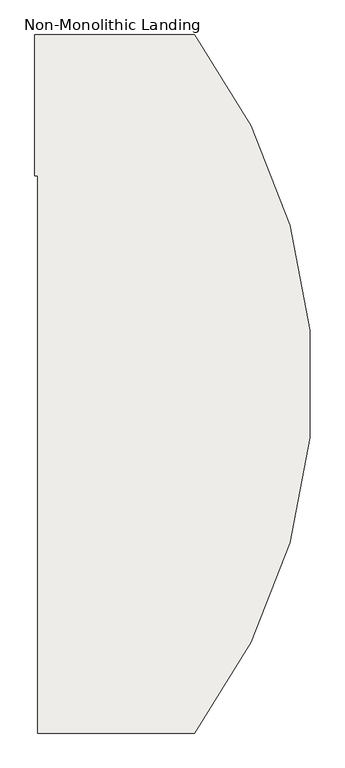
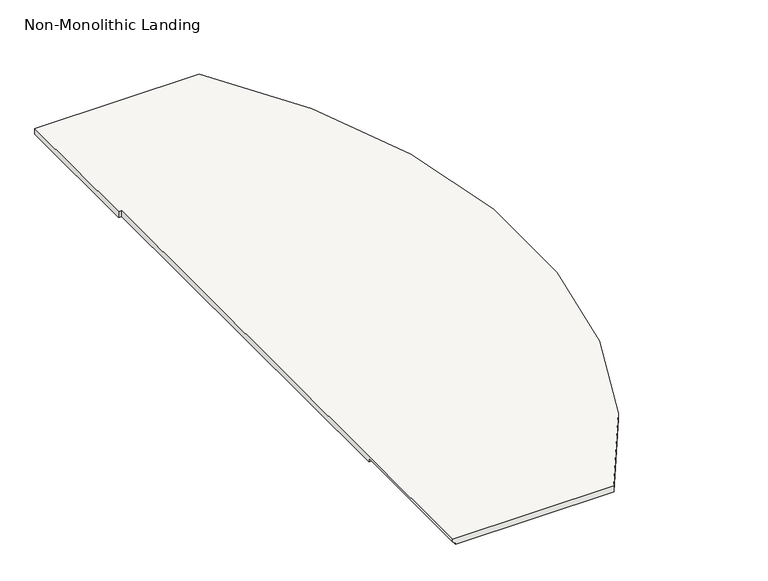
"""IFC4 building model written with IfcOpenShell, lengths in millimetres: slab geometry, Non-Monolithic Landing."""

from ifc_helpers import new_model, si_unit, frame, origin, place, context, project, spatial, circle_curve, source, transform, mapped, element, save
from ifc_brep_helpers import plane_surface, cylinder_surface, advanced_brep


def non_monolithic_landing_b48be56e(model_context):
    return source(origin(), model_context, "Body", "AdvancedBrep", [
        advanced_brep(
        [(20563.4049721, -5529.9976681, 1871.4357143), (20538.0049721, -5529.9976681, 1896.8357143), (20538.0049721, -4310.7976681, 1896.8357143), (20563.4049721, -4310.7976681, 1871.4357143), (20538.0049721, 518.3773319, 1915.8857143), (20512.6049721, 518.3773319, 1915.8857143), (20512.6049721, -700.8226681, 1915.8857143), (20538.0049721, -700.8226681, 1915.8857143), (20538.0049721, -5529.9976681, 1915.8857143), (21896.5169819, -5529.9976681, 1915.8857143), (21896.5169819, 518.3773319, 1915.8857143), (20512.6049721, 518.3773319, 1865.0857143), (20538.0049721, 518.3773319, 1865.0857143), (21896.5169819, 518.3773319, 1865.0857143), (21896.5169819, -5529.9976681, 1865.0857143), (20563.4049721, -5529.9976681, 1865.0857143), (20563.4049721, -4310.7976681, 1865.0857143), (20538.0049721, -4310.7976681, 1865.0857143), (20538.0049721, -700.8226681, 1865.0857143), (20512.6049721, -700.8226681, 1865.0857143)],
        [
            (0, 1),
            (1, 2),
            (2, 3),
            (3, 0),
            (4, 5),
            (5, 6),
            (6, 7),
            (7, 8),
            (8, 9),
            (9, 10, circle_curve(frame((17937.9339721, -2505.8101681, 1915.8857143), z_axis=(0.0, 0.0, 1.0), x_axis=(1.0, 0.0, 0.0)), 4981.575)),
            (10, 4),
            (11, 12),
            (12, 13),
            (13, 14, circle_curve(frame((17937.9339721, -2505.8101681, 1865.0857143), z_axis=(0.0, 0.0, -1.0), x_axis=(1.0, 0.0, 0.0)), 4981.575)),
            (14, 15),
            (15, 16),
            (16, 17),
            (17, 18),
            (18, 19),
            (19, 11),
            (16, 3),
            (2, 17),
            (15, 0),
            (8, 1),
            (14, 9),
            (10, 13),
            (12, 4),
            (5, 11),
            (19, 6),
            (7, 18),
        ],
        [
            plane_surface(frame((20538.0049721, -5529.9976681, 1896.8357143), z_axis=(-0.7071067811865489, 0.0, -0.7071067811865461), x_axis=(0.0, 1.0, 0.0))),
            plane_surface(frame((20538.0049721, 518.3773319, 1915.8857143), z_axis=(0.0, 0.0, 1.0), x_axis=(-1.0, 0.0, 0.0))),
            plane_surface(frame((20538.0049721, 518.3773319, 1865.0857143), z_axis=(0.0, 0.0, -1.0), x_axis=(1.0, 0.0, 0.0))),
            plane_surface(frame((20538.0049721, -4310.7976681, 1915.8857143), z_axis=(0.0, -1.0, 0.0), x_axis=(0.0, 0.0, -1.0))),
            plane_surface(frame((20563.4049721, -4310.7976681, 1915.8857143), z_axis=(-1.0, 0.0, 0.0), x_axis=(0.0, 0.0, -1.0))),
            plane_surface(frame((20563.4049721, -5529.9976681, 1915.8857143), z_axis=(0.0, -1.0, 0.0), x_axis=(0.0, 0.0, -1.0))),
            plane_surface(frame((21896.5169819, 518.3773319, 1915.8857143), z_axis=(0.0, 1.0, 0.0), x_axis=(0.0, 0.0, -1.0))),
            plane_surface(frame((20512.6049721, 518.3773319, 1915.8857143), z_axis=(-1.0, 0.0, 0.0), x_axis=(0.0, 0.0, -1.0))),
            plane_surface(frame((20538.0049721, -700.8226681, 1915.8857143), z_axis=(-1.0, 0.0, 0.0), x_axis=(0.0, 0.0, -1.0))),
            plane_surface(frame((20538.0049721, 518.3773319, 1915.8857143), z_axis=(0.0, 1.0, 0.0), x_axis=(0.0, 0.0, -1.0))),
            plane_surface(frame((20512.6049721, -700.8226681, 1915.8857143), z_axis=(0.0, -1.0, 0.0), x_axis=(0.0, 0.0, -1.0))),
            cylinder_surface(frame((17937.9339721, -2505.8101681, 1865.0857143), z_axis=(0.0, 0.0, 1.0), x_axis=(1.0, 0.0, 0.0)), 4981.575),
        ],
        [
            (0, [[1, 2, 3, 4]]),
            (1, [[5, 6, 7, 8, 9, 10, 11]]),
            (2, [[12, 13, 14, 15, 16, 17, 18, 19, 20]]),
            (3, [[-17, 21, -3, 22]]),
            (4, [[-16, 23, -4, -21]]),
            (5, [[-9, 24, -1, -23, -15, 25]]),
            (6, [[-11, 26, -13, 27]]),
            (7, [[-6, 28, -20, 29]]),
            (8, [[-8, 30, -18, -22, -2, -24]]),
            (9, [[-5, -27, -12, -28]]),
            (10, [[-7, -29, -19, -30]]),
            (11, [[-10, -25, -14, -26]]),
        ],
    ),
    ])


if __name__ == "__main__":
    model = new_model("IFC4")
    model_context = context("Model", 3, world=origin())
    ifc_project = project(units=[si_unit("LENGTHUNIT", "METRE", prefix="MILLI")], contexts=[model_context])
    site = spatial("IfcSite", under=ifc_project)
    building = spatial("IfcBuilding", under=site)
    placement = place(None, origin())
    non_monolithic_landing_shape = non_monolithic_landing_b48be56e(model_context)
    element("IfcSlab", 1, ObjectType="Non-Monolithic Landing", at=placement, inside=building, context=model_context, shape_type="MappedRepresentation", body=[
        mapped(non_monolithic_landing_shape, transform((0.0, 0.0, 0.0), x_axis=(1.0, 0.0, 0.0), y_axis=(0.0, 1.0, 0.0), z_axis=(0.0, 0.0, 1.0))),
    ])
    save(model, "model.ifc")
